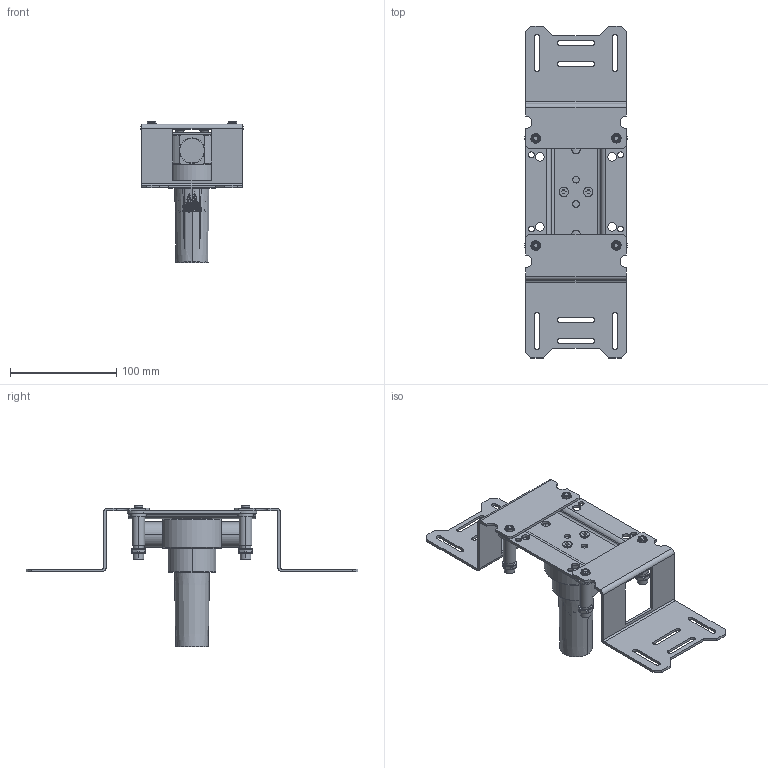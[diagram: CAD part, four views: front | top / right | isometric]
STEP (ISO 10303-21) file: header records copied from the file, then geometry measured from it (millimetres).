
FILE_DESCRIPTION((''),'2;1');
FILE_NAME('ASM0009_ASM','2021-01-13T',('扢數'),(''),'PRO/ENGINEER BY PARAMETRIC TECHNOLOGY CORPORATION, 2015240','PRO/ENGINEER BY PARAMETRIC TECHNOLOGY CORPORATION, 2015240','');
FILE_SCHEMA(('CONFIG_CONTROL_DESIGN'));
Products named in the file (19): PRT0036_AF0; PRT0035_AF0; PRT0037_AF0; PRT0037_AF1; PRT0039_AF0; PRT0041_AF0; PRT0042_AF0; 41X2_AF0; M4--_AF0; PRT0037; STCT0158-XX-1_2_AF0; STCT0175-XX_14; STMB0313-XX_6; STST0094-XX_4; MSBY0029-XX_ASM_43_AF0_ASM; GAI-01; M6; K; ASM0009_ASM
Assembly tree (28 placements, depth 3):
  ASM0009_ASM
    PRT0036_AF0
    PRT0035_AF0
    PRT0037_AF0
    PRT0037_AF1
    PRT0039_AF0
    PRT0041_AF0
    PRT0042_AF0
    41X2_AF0
    M4--_AF0
    PRT0037
    MSBY0029-XX_ASM_43_AF0_ASM
      STCT0158-XX-1_2_AF0
      STCT0175-XX_14  x2
      STMB0313-XX_6  x4
      STST0094-XX_4  x4
    GAI-01
    M6  x2
    K  x3
Bounding box: 97 x 313 x 133 mm (x, y, z)
Volume: 243091.1 mm3; surface area: 171431.1 mm2
Topology: 27 solids, 29 shells, 1284 faces, 3500 edges, 2340 vertices
Faces by surface type: cylinder 611, plane 340, cone 165, bspline 100, torus 68
Entity records: 63168 total; most frequent: CARTESIAN_POINT 39531, ORIENTED_EDGE 5124, DIRECTION 4478, EDGE_CURVE 2566, AXIS2_PLACEMENT_3D 1745, VERTEX_POINT 1693, EDGE_LOOP 1087, VECTOR 988
